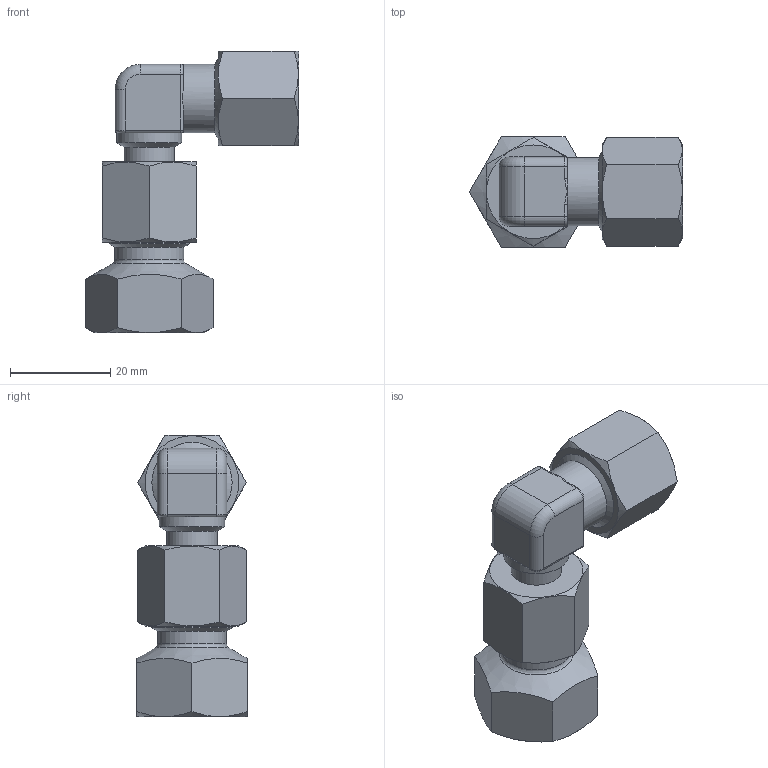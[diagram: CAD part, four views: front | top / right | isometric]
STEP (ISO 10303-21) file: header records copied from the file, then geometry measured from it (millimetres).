
FILE_DESCRIPTION(/* description */ (''),/* implementation_level */ '2;1');
FILE_NAME(/* name */ 'P:\AS\NH-10W\NH-10W.stp',/* time_stamp */ '2017-12-14T09:11:45+01:00',/* author */ ('neufeld'),/* organization */ (''),/* preprocessor_version */ 'ST-DEVELOPER v16.1',/* originating_system */ 'Autodesk Inventor 2016',/* authorisation */ '');
FILE_SCHEMA (('AUTOMOTIVE_DESIGN { 1 0 10303 214 3 1 1 }'));
Length unit declared in the file: millimetre
Products named in the file (1): NH-10W_AG-Kunde
Bounding box: 42.43 x 22 x 55.98 mm (x, y, z)
Volume: 17410 mm3; surface area: 6733.7 mm2
Topology: 1 solids, 1 shells, 87 faces, 207 edges, 122 vertices
Faces by surface type: plane 37, cylinder 22, cone 15, torus 7, bspline 4, sphere 2
Full cylindrical faces by diameter (mm): 8 x1, 10 x1, 10.1 x1, 13 x1, 13.6 x1, 13.7 x1, 14.5 x1, 16 x1
Entity records: 2410 total; most frequent: CARTESIAN_POINT 621, DIRECTION 363, ORIENTED_EDGE 348, EDGE_CURVE 174, AXIS2_PLACEMENT_3D 156, VERTEX_POINT 113, EDGE_LOOP 111, FACE_OUTER_BOUND 87
